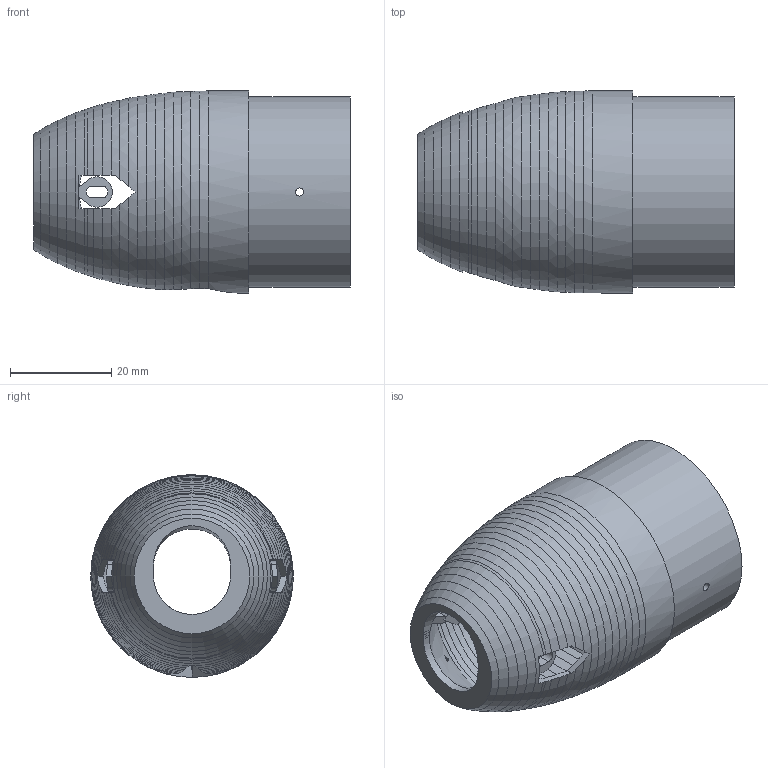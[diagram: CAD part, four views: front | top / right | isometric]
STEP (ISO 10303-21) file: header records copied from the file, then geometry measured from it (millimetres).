
FILE_DESCRIPTION(('SkyG Speed 90B - revision C6B-16 - 2026-10-13','N0M-nose-micro-camera'),'2;1');
FILE_NAME('N0M-nose-micro-camera_C6B-16','2026-10-13T19:26:15',('Author'),( 'Open CASCADE'),'Open CASCADE STEP processor 7.9','Open CASCADE 7.9' ,'Unknown');
FILE_SCHEMA(('AUTOMOTIVE_DESIGN { 1 0 10303 214 1 1 1 1 }'));
Length unit declared in the file: millimetre
Products named in the file (1): N0M-nose-micro-camera C6B-16
Bounding box: 62.5 x 40 x 40 mm (x, y, z)
Volume: 13696.7 mm3; surface area: 15285.2 mm2
Topology: 1 solids, 1 shells, 281 faces, 822 edges, 542 vertices
Faces by surface type: plane 153, cone 61, cylinder 35, bspline 32
Full cylindrical faces by diameter (mm): 1.6 x2, 33.8 x1, 37.7 x1, 40 x1
Entity records: 23350 total; most frequent: CARTESIAN_POINT 8456, DIRECTION 2436, ORIENTED_EDGE 1644, PCURVE 1644, DEFINITIONAL_REPRESENTATION 1644, LINE 1031, VECTOR 1031, EDGE_CURVE 822
